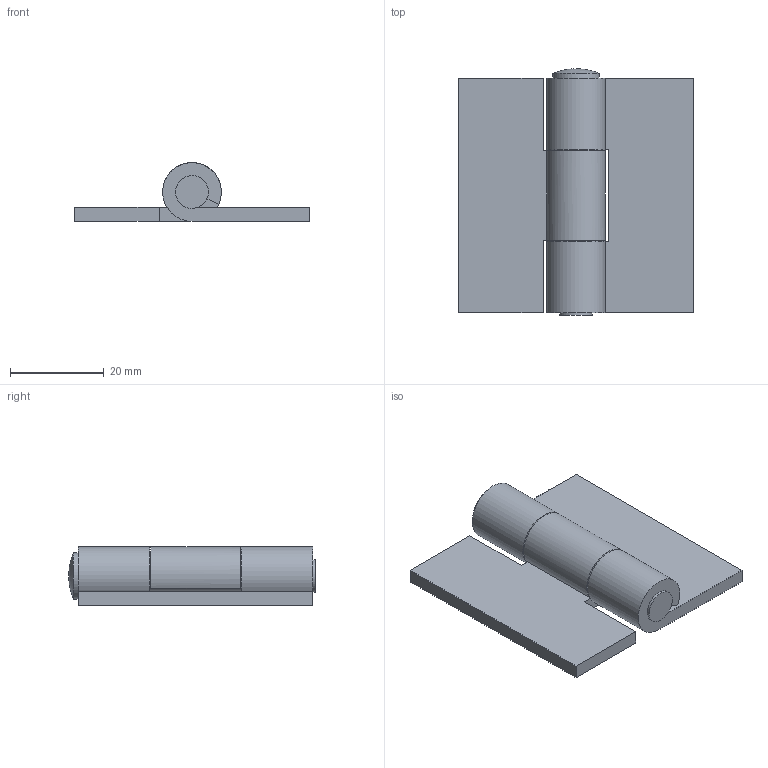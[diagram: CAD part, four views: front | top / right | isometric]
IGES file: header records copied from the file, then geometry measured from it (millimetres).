
Global section: file name: DR_HHN5050-30; native system: Autodesk Inventor 2015; preprocessor: unknown; author: Administrator; date: 20180811.153936; units: millimetre
Bounding box: 50 x 52.5 x 12.5 mm (x, y, z)
Volume: 11873 mm3; surface area: 9334.1 mm2
Topology: 3 solids, 3 shells, 33 faces, 84 edges, 58 vertices
Faces by surface type: bspline 33
